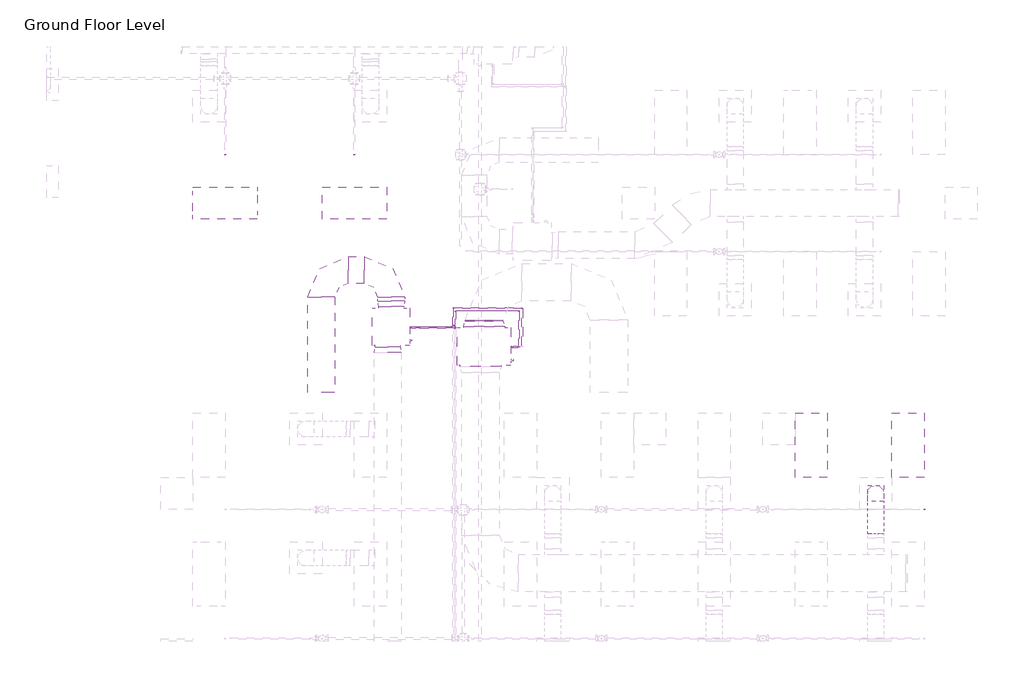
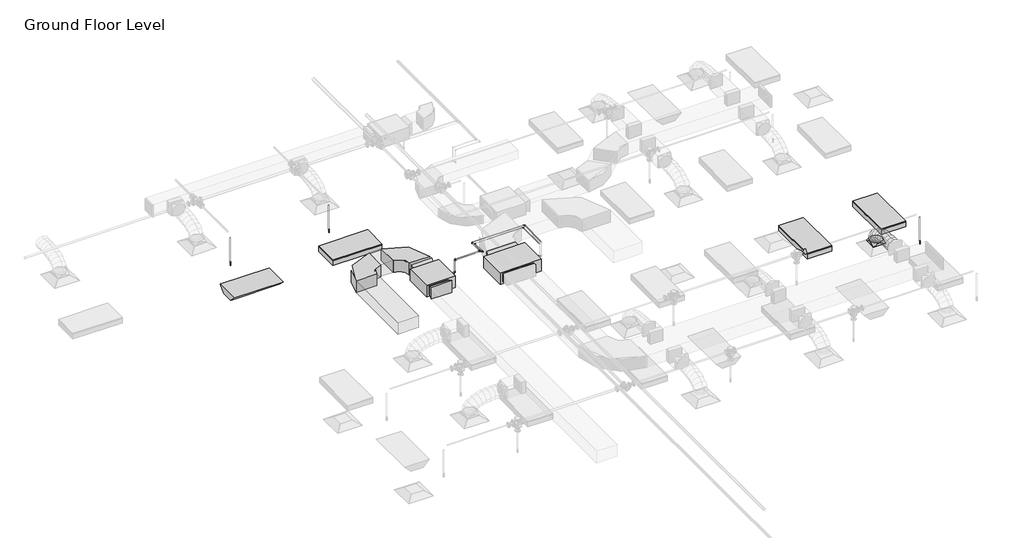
# One storey, part 33 of 74: 17 pipe segments, 14 pipe fittings, 6 duct fittings, 5 duct segments, 4 light fixtures, 3 fire suppression terminals, 2 proxies.
"""IFC4 building model written with IfcOpenShell, lengths in millimetres."""

from ifc_helpers import new_model, si_unit, point, frame, frame_2d, origin, place, context, project, spatial, polyline, circle_curve, ellipse_curve, trimmed, segment, composite_curve, outline, extrude, transform, mapped, element, save
from ifc_brep_helpers import plane_surface, cylinder_surface, advanced_brep
from components import fcu_daikin_iu_7e1df382, fcu_daikin_iu_bad131e0, m_rectangular_elbow_radius_1_w_abe20169, m_rectangular_transition_angle_45_degree_3cf6e25b, m_rectangular_transition_angle_45_degree_f7c2916c, m_rectangular_transition_angle_45_degree_603cf0b0, m_rectangular_to_round_transition_angle_45_degree_641efff0, m_sprinkler_dry_pendent_hosted_15_mm_dry_pendent_9bda8e11, m_emergency_recessed_lighting_fixture_600x1200_277_5b10b25d, m_troffer_light_parabolic_rectangular1_0600x1200mm_4_lamp_86473d4a, m_elbow_generic_standard_a088f956, m_elbow_generic_standard_2a704253, m_tee_generic_standard_cdc1cff5, m_tee_generic_standard_d9c36a1d, m_transition_generic_standard_6dc712c0, m_transition_generic_standard_b63c8674

model = new_model("IFC4")

# Units and contexts
model_context = context("Model", 3, world=origin())
ifc_project = project(units=[si_unit("LENGTHUNIT", "METRE", prefix="MILLI")], contexts=[model_context])

# Site, building, storey
site = spatial("IfcSite", under=ifc_project)
building = spatial("IfcBuilding", under=site)
storey = spatial("IfcBuildingStorey", under=building, Name="Ground Floor Level", Elevation=900.0)

# Proxies
placement = place(None, origin())
fcu_daikin_iu_shape = fcu_daikin_iu_7e1df382(model_context)
element("IfcBuildingElementProxy", 1, Name="FCU-DAIKIN IU : 7.2kW, 230V/50Hz/1Ph", ObjectType="FCU-DAIKIN IU : 7.2kW, 230V/50Hz/1Ph", at=placement, inside=storey, context=model_context, shape_type="MappedRepresentation", body=[
    mapped(fcu_daikin_iu_shape, transform((6073.4139492, -7933.9358641, 3934.0875), x_axis=(1.0, 0.0, 0.0), y_axis=(0.0, 1.0, 0.0), z_axis=(0.0, 0.0, 1.0))),
])
fcu_daikin_iu_2_shape = fcu_daikin_iu_bad131e0(model_context)
element("IfcBuildingElementProxy", 2, Name="FCU-DAIKIN IU : 4.5kW, 230V/50Hz/1Ph", ObjectType="FCU-DAIKIN IU : 4.5kW, 230V/50Hz/1Ph", at=placement, inside=storey, context=model_context, shape_type="MappedRepresentation", body=[
    mapped(fcu_daikin_iu_2_shape, transform((4345.6581888, -7565.0566353, 3934.0874218), x_axis=(1.0, 0.0, 0.0), y_axis=(0.0, 1.0, 0.0), z_axis=(0.0, 0.0, 1.0))),
])

# Duct fittings
m_rectangular_elbow_radius_1_w_shape = m_rectangular_elbow_radius_1_w_abe20169(model_context)
element("IfcDuctFitting", 3, ObjectType="M_Rectangular Elbow - Radius : 1 W", at=placement, inside=storey, context=model_context, shape_type="MappedRepresentation", body=[
    mapped(m_rectangular_elbow_radius_1_w_shape, transform((4345.6581888, -6509.6566353, 4075.2874218), x_axis=(0.0, 1.0, 0.0), y_axis=(-1.0, 0.0, 0.0), z_axis=(0.0, 0.0, 1.0))),
])
element("IfcDuctFitting", 4, ObjectType="M_Rectangular Elbow - Radius : 1 W", at=placement, inside=storey, context=model_context, shape_type="MappedRepresentation", body=[
    mapped(m_rectangular_elbow_radius_1_w_shape, transform((3045.6581888, -6509.6566353, 4075.2874218), x_axis=(-1.0, 0.0, 0.0), y_axis=(0.0, -1.0, 0.0), z_axis=(0.0, 0.0, 1.0))),
])
m_rectangular_transition_angle_45_degree_shape = m_rectangular_transition_angle_45_degree_3cf6e25b(model_context)
element("IfcDuctFitting", 5, ObjectType="M_Rectangular Transition - Angle : 45 Degree", at=placement, inside=storey, context=model_context, shape_type="MappedRepresentation", body=[
    mapped(m_rectangular_transition_angle_45_degree_shape, transform((4282.1581888, -7940.4566353, 4099.9999218), x_axis=(0.0, -1.0, 0.0), y_axis=(1.0, 0.0, 0.0), z_axis=(0.0, 0.0, 1.0))),
])
m_rectangular_transition_angle_45_degree_2_shape = m_rectangular_transition_angle_45_degree_f7c2916c(model_context)
element("IfcDuctFitting", 6, ObjectType="M_Rectangular Transition - Angle : 45 Degree", at=placement, inside=storey, context=model_context, shape_type="MappedRepresentation", body=[
    mapped(m_rectangular_transition_angle_45_degree_2_shape, transform((4345.6581888, -7189.6566353, 4075.2874218), x_axis=(0.0, 1.0, 0.0), y_axis=(-1.0, 0.0, 0.0), z_axis=(0.0, 0.0, 1.0))),
])
m_rectangular_transition_angle_45_degree_3_shape = m_rectangular_transition_angle_45_degree_603cf0b0(model_context)
element("IfcDuctFitting", 7, ObjectType="M_Rectangular Transition - Angle : 45 Degree", at=placement, inside=storey, context=model_context, shape_type="MappedRepresentation", body=[
    mapped(m_rectangular_transition_angle_45_degree_3_shape, transform((6073.4139492, -7558.5358641, 4075.2875), x_axis=(0.0, 1.0, 0.0), y_axis=(-1.0, 0.0, 0.0), z_axis=(0.0, 0.0, 1.0))),
])
m_rectangular_to_round_transition_angle_45_degree_shape = m_rectangular_to_round_transition_angle_45_degree_641efff0(model_context)
element("IfcDuctFitting", 8, ObjectType="M_Rectangular to Round Transition - Angle : 45 Degree", at=placement, inside=storey, context=model_context, shape_type="MappedRepresentation", body=[
    mapped(m_rectangular_to_round_transition_angle_45_degree_shape, transform((13352.7672395, -10664.7846466, 3751.6), x_axis=(0.0, 0.0, 1.0), y_axis=(-1.0, 0.0, 0.0), z_axis=(0.0, -1.0, 0.0))),
])

# Duct segments
element("IfcDuctSegment", 9, ObjectType="Flex - Round", at=placement, inside=storey, context=model_context, shape_type="AdvancedBrep", body=[
    advanced_brep(
    [(13502.7672395, -10664.7846466, 3826.6), (13352.7672395, -10814.7846466, 3826.6), (13202.7672395, -10664.7846466, 3826.6), (13352.7672395, -10514.7846466, 3826.6), (13502.7672395, -10664.7846466, 3857.9382361), (13352.7672395, -10814.7846466, 3832.2943726), (13202.7672395, -10664.7846466, 3857.9382361), (13352.7672395, -10514.7846466, 3883.5820996), (13502.7672395, -10681.8009258, 3906.2508008), (13352.7672395, -10815.5381175, 3834.4336246), (13202.7672395, -10681.8009258, 3906.2508008), (13352.7672395, -10548.0637341, 3978.0679769), (13502.7672395, -10728.9857498, 3968.710741), (13352.7672395, -10833.1895095, 3857.7992917), (13202.7672395, -10728.9857498, 3968.710741), (13352.7672395, -10624.78199, 4079.6221903), (13502.7672395, -10800.5430984, 4016.0679312), (13352.7672395, -10869.4737825, 3881.8124958), (13202.7672395, -10800.5430984, 4016.0679312), (13352.7672395, -10731.6124143, 4150.3233665), (13502.7672395, -10890.6769515, 4050.4104815), (13352.7672395, -10934.2340294, 3906.4872652), (13202.7672395, -10890.6769515, 4050.4104815), (13352.7672395, -10847.1198737, 4194.3336978), (13502.7672395, -10993.591289, 4073.8265025), (13352.7672395, -11020.1487195, 3926.0353694), (13202.7672395, -10993.591289, 4073.8265025), (13352.7672395, -10967.0338584, 4221.6176356), (13502.7672395, -11103.4900905, 4088.4041045), (13352.7672395, -11118.6379564, 3939.0995418), (13202.7672395, -11103.4900905, 4088.4041045), (13352.7672395, -11088.3422246, 4237.7086671), (13502.7672395, -11214.5773359, 4096.2313978), (13352.7672395, -11222.0803018, 3946.3881695), (13202.7672395, -11214.5773359, 4096.2313978), (13352.7672395, -11207.0743701, 4246.074626), (13502.7672395, -11321.0570051, 4099.3964928), (13352.7672395, -11323.7471101, 3949.4102029), (13202.7672395, -11321.0570051, 4099.3964928), (13352.7672395, -11318.3669002, 4249.3827828), (13502.7672395, -11417.1330779, 4099.9875), (13352.7672395, -11416.2103779, 4249.9846621), (13202.7672395, -11417.1330779, 4099.9875), (13352.7672395, -11418.0557779, 3949.9903379)],
    [
        (0, 1, circle_curve(frame((13352.7672395, -10664.7846466, 3826.6), z_axis=(0.0, 0.0, -1.0), x_axis=(1.0, 0.0, 0.0)), 150.0)),
        (1, 2, circle_curve(frame((13352.7672395, -10664.7846466, 3826.6), z_axis=(0.0, 0.0, -1.0), x_axis=(1.0, 0.0, 0.0)), 150.0)),
        (2, 3, circle_curve(frame((13352.7672395, -10664.7846466, 3826.6), z_axis=(0.0, 0.0, -1.0), x_axis=(1.0, 0.0, 0.0)), 150.0)),
        (3, 0, circle_curve(frame((13352.7672395, -10664.7846466, 3826.6), z_axis=(0.0, 0.0, -1.0), x_axis=(1.0, 0.0, 0.0)), 150.0)),
        (0, 4),
        (4, 5, ellipse_curve(frame((13352.7672395, -10664.7846466, 3857.9382361), z_axis=(0.0, 0.16851424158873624, -0.9856992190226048), x_axis=(0.0, -0.9856992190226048, -0.16851424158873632)), 152.1762391, 150.0)),
        (5, 1),
        (5, 6, ellipse_curve(frame((13352.7672395, -10664.7846466, 3857.9382361), z_axis=(0.0, 0.16851424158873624, -0.9856992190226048), x_axis=(0.0, -0.9856992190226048, -0.16851424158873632)), 152.1762391, 150.0)),
        (6, 2),
        (6, 7, ellipse_curve(frame((13352.7672395, -10664.7846466, 3857.9382361), z_axis=(0.0, 0.16851424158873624, -0.9856992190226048), x_axis=(0.0, -0.9856992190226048, -0.16851424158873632)), 152.1762391, 150.0)),
        (7, 3),
        (7, 4, ellipse_curve(frame((13352.7672395, -10664.7846466, 3857.9382361), z_axis=(0.0, 0.16851424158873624, -0.9856992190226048), x_axis=(0.0, -0.9856992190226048, -0.16851424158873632)), 152.1762391, 150.0)),
        (4, 8),
        (8, 9, ellipse_curve(frame((13352.7672395, -10681.8009258, 3906.2508008), z_axis=(0.0, 0.4731028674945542, -0.8810071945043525), x_axis=(0.0, -0.8810071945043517, -0.47310286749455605)), 151.80034, 150.0)),
        (9, 5),
        (9, 10, ellipse_curve(frame((13352.7672395, -10681.8009258, 3906.2508008), z_axis=(0.0, 0.4731028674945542, -0.8810071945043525), x_axis=(0.0, -0.8810071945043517, -0.47310286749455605)), 151.80034, 150.0)),
        (10, 6),
        (10, 11, ellipse_curve(frame((13352.7672395, -10681.8009258, 3906.2508008), z_axis=(0.0, 0.4731028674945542, -0.8810071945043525), x_axis=(0.0, -0.8810071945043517, -0.47310286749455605)), 151.80034, 150.0)),
        (11, 7),
        (11, 8, ellipse_curve(frame((13352.7672395, -10681.8009258, 3906.2508008), z_axis=(0.0, 0.4731028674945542, -0.8810071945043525), x_axis=(0.0, -0.8810071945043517, -0.47310286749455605)), 151.80034, 150.0)),
        (8, 12),
        (12, 13, ellipse_curve(frame((13352.7672395, -10728.9857498, 3968.710741), z_axis=(0.0, 0.7288014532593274, -0.6847250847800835), x_axis=(0.0, -0.6847250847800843, -0.7288014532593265)), 152.1833536, 150.0)),
        (13, 9),
        (13, 14, ellipse_curve(frame((13352.7672395, -10728.9857498, 3968.710741), z_axis=(0.0, 0.7288014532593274, -0.6847250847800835), x_axis=(0.0, -0.6847250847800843, -0.7288014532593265)), 152.1833536, 150.0)),
        (14, 10),
        (14, 15, ellipse_curve(frame((13352.7672395, -10728.9857498, 3968.710741), z_axis=(0.0, 0.7288014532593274, -0.6847250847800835), x_axis=(0.0, -0.6847250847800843, -0.7288014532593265)), 152.1833536, 150.0)),
        (15, 11),
        (15, 12, ellipse_curve(frame((13352.7672395, -10728.9857498, 3968.710741), z_axis=(0.0, 0.7288014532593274, -0.6847250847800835), x_axis=(0.0, -0.6847250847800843, -0.7288014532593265)), 152.1833536, 150.0)),
        (12, 16),
        (16, 17, ellipse_curve(frame((13352.7672395, -10800.5430984, 4016.0679312), z_axis=(0.0, 0.8895974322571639, -0.45674545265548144), x_axis=(0.0, -0.45674545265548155, -0.889597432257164)), 150.9170671, 150.0)),
        (17, 13),
        (17, 18, ellipse_curve(frame((13352.7672395, -10800.5430984, 4016.0679312), z_axis=(0.0, 0.8895974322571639, -0.45674545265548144), x_axis=(0.0, -0.45674545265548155, -0.889597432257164)), 150.9170671, 150.0)),
        (18, 14),
        (18, 19, ellipse_curve(frame((13352.7672395, -10800.5430984, 4016.0679312), z_axis=(0.0, 0.8895974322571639, -0.45674545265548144), x_axis=(0.0, -0.45674545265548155, -0.889597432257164)), 150.9170671, 150.0)),
        (19, 15),
        (19, 16, ellipse_curve(frame((13352.7672395, -10800.5430984, 4016.0679312), z_axis=(0.0, 0.8895974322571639, -0.45674545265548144), x_axis=(0.0, -0.45674545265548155, -0.889597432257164)), 150.9170671, 150.0)),
        (16, 20),
        (20, 21, ellipse_curve(frame((13352.7672395, -10890.6769515, 4050.4104815), z_axis=(0.0, 0.9571277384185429, -0.28966617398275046), x_axis=(0.0, -0.2896661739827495, -0.9571277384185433)), 150.3699146, 150.0)),
        (21, 17),
        (21, 22, ellipse_curve(frame((13352.7672395, -10890.6769515, 4050.4104815), z_axis=(0.0, 0.9571277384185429, -0.28966617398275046), x_axis=(0.0, -0.2896661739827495, -0.9571277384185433)), 150.3699146, 150.0)),
        (22, 18),
        (22, 23, ellipse_curve(frame((13352.7672395, -10890.6769515, 4050.4104815), z_axis=(0.0, 0.9571277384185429, -0.28966617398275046), x_axis=(0.0, -0.2896661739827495, -0.9571277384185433)), 150.3699146, 150.0)),
        (23, 19),
        (23, 20, ellipse_curve(frame((13352.7672395, -10890.6769515, 4050.4104815), z_axis=(0.0, 0.9571277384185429, -0.28966617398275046), x_axis=(0.0, -0.2896661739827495, -0.9571277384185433)), 150.3699146, 150.0)),
        (20, 24),
        (24, 25, ellipse_curve(frame((13352.7672395, -10993.591289, 4073.8265025), z_axis=(0.0, 0.9842355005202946, -0.17686288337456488), x_axis=(0.0, -0.17686288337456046, -0.9842355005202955)), 150.1583036, 150.0)),
        (25, 21),
        (25, 26, ellipse_curve(frame((13352.7672395, -10993.591289, 4073.8265025), z_axis=(0.0, 0.9842355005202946, -0.17686288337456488), x_axis=(0.0, -0.17686288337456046, -0.9842355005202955)), 150.1583036, 150.0)),
        (26, 22),
        (26, 27, ellipse_curve(frame((13352.7672395, -10993.591289, 4073.8265025), z_axis=(0.0, 0.9842355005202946, -0.17686288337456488), x_axis=(0.0, -0.17686288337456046, -0.9842355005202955)), 150.1583036, 150.0)),
        (27, 23),
        (27, 24, ellipse_curve(frame((13352.7672395, -10993.591289, 4073.8265025), z_axis=(0.0, 0.9842355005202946, -0.17686288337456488), x_axis=(0.0, -0.17686288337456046, -0.9842355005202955)), 150.1583036, 150.0)),
        (24, 28),
        (28, 29, ellipse_curve(frame((13352.7672395, -11103.4900905, 4088.4041045), z_axis=(0.0, 0.9948927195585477, -0.10093798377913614), x_axis=(0.0, -0.1009379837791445, -0.9948927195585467)), 150.0710174, 150.0)),
        (29, 25),
        (29, 30, ellipse_curve(frame((13352.7672395, -11103.4900905, 4088.4041045), z_axis=(0.0, 0.9948927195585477, -0.10093798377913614), x_axis=(0.0, -0.1009379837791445, -0.9948927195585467)), 150.0710174, 150.0)),
        (30, 26),
        (30, 31, ellipse_curve(frame((13352.7672395, -11103.4900905, 4088.4041045), z_axis=(0.0, 0.9948927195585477, -0.10093798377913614), x_axis=(0.0, -0.1009379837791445, -0.9948927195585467)), 150.0710174, 150.0)),
        (31, 27),
        (31, 28, ellipse_curve(frame((13352.7672395, -11103.4900905, 4088.4041045), z_axis=(0.0, 0.9948927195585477, -0.10093798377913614), x_axis=(0.0, -0.1009379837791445, -0.9948927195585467)), 150.0710174, 150.0)),
        (28, 32),
        (32, 33, ellipse_curve(frame((13352.7672395, -11214.5773359, 4096.2313978), z_axis=(0.0, 0.9987487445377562, -0.05000945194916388), x_axis=(0.0, -0.05000945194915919, -0.9987487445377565)), 150.0309553, 150.0)),
        (33, 29),
        (33, 34, ellipse_curve(frame((13352.7672395, -11214.5773359, 4096.2313978), z_axis=(0.0, 0.9987487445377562, -0.05000945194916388), x_axis=(0.0, -0.05000945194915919, -0.9987487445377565)), 150.0309553, 150.0)),
        (34, 30),
        (34, 35, ellipse_curve(frame((13352.7672395, -11214.5773359, 4096.2313978), z_axis=(0.0, 0.9987487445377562, -0.05000945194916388), x_axis=(0.0, -0.05000945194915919, -0.9987487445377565)), 150.0309553, 150.0)),
        (35, 31),
        (35, 32, ellipse_curve(frame((13352.7672395, -11214.5773359, 4096.2313978), z_axis=(0.0, 0.9987487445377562, -0.05000945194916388), x_axis=(0.0, -0.05000945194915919, -0.9987487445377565)), 150.0309553, 150.0)),
        (32, 36),
        (36, 37, ellipse_curve(frame((13352.7672395, -11321.0570051, 4099.3964928), z_axis=(0.0, 0.9998391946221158, -0.017932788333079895), x_axis=(0.0, -0.017932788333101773, -0.9998391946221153)), 150.0104124, 150.0)),
        (37, 33),
        (37, 38, ellipse_curve(frame((13352.7672395, -11321.0570051, 4099.3964928), z_axis=(0.0, 0.9998391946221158, -0.017932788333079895), x_axis=(0.0, -0.017932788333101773, -0.9998391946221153)), 150.0104124, 150.0)),
        (38, 34),
        (38, 39, ellipse_curve(frame((13352.7672395, -11321.0570051, 4099.3964928), z_axis=(0.0, 0.9998391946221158, -0.017932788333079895), x_axis=(0.0, -0.017932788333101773, -0.9998391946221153)), 150.0104124, 150.0)),
        (39, 35),
        (39, 36, ellipse_curve(frame((13352.7672395, -11321.0570051, 4099.3964928), z_axis=(0.0, 0.9998391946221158, -0.017932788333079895), x_axis=(0.0, -0.017932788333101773, -0.9998391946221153)), 150.0104124, 150.0)),
        (40, 41, circle_curve(frame((13352.7672395, -11417.1330779, 4099.9875), z_axis=(0.0, -0.999981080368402, 0.0061513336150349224), x_axis=(1.0, 0.0, 0.0)), 150.0)),
        (41, 42, circle_curve(frame((13352.7672395, -11417.1330779, 4099.9875), z_axis=(0.0, -0.999981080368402, 0.0061513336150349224), x_axis=(1.0, 0.0, 0.0)), 150.0)),
        (42, 43, circle_curve(frame((13352.7672395, -11417.1330779, 4099.9875), z_axis=(0.0, -0.999981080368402, 0.0061513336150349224), x_axis=(1.0, 0.0, 0.0)), 150.0)),
        (43, 40, circle_curve(frame((13352.7672395, -11417.1330779, 4099.9875), z_axis=(0.0, -0.999981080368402, 0.0061513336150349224), x_axis=(1.0, 0.0, 0.0)), 150.0)),
        (36, 40),
        (43, 37),
        (42, 38),
        (41, 39),
    ],
    [
        plane_surface(frame((13352.7672395, -10814.7846466, 3826.6), z_axis=(0.0, 0.0, -1.0), x_axis=(1.0, 0.0, 0.0))),
        cylinder_surface(frame((13352.7672395, -10664.7846466, 3826.6), z_axis=(0.0, 0.0, -1.0), x_axis=(1.0, 0.0, 0.0)), 150.0),
        cylinder_surface(frame((13352.7672395, -10664.7846466, 3857.9382361), z_axis=(0.0, 0.3322087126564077, -0.943205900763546), x_axis=(1.0, 0.0, 0.0)), 150.0),
        cylinder_surface(frame((13352.7672395, -10681.8009258, 3906.2508008), z_axis=(0.0, 0.6027750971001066, -0.797911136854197), x_axis=(1.0, 0.0, 0.0)), 150.0),
        cylinder_surface(frame((13352.7672395, -10728.9857498, 3968.710741), z_axis=(0.0, 0.8339157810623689, -0.5518917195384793), x_axis=(1.0, 0.0, 0.0)), 150.0),
        cylinder_surface(frame((13352.7672395, -10800.5430984, 4016.0679312), z_axis=(0.0, 0.9344675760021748, -0.3560482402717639), x_axis=(1.0, 0.0, 0.0)), 150.0),
        cylinder_surface(frame((13352.7672395, -10890.6769515, 4050.4104815), z_axis=(0.0, 0.9750787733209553, -0.22185893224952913), x_axis=(1.0, 0.0, 0.0)), 150.0),
        cylinder_surface(frame((13352.7672395, -10993.591289, 4073.8265025), z_axis=(0.0, 0.9913169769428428, -0.13149392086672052), x_axis=(1.0, 0.0, 0.0)), 150.0),
        cylinder_surface(frame((13352.7672395, -11103.4900905, 4088.4041045), z_axis=(0.0, 0.9975268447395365, -0.07028651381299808), x_axis=(1.0, 0.0, 0.0)), 150.0),
        cylinder_surface(frame((13352.7672395, -11214.5773359, 4096.2313978), z_axis=(0.0, 0.999558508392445, -0.029711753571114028), x_axis=(1.0, 0.0, 0.0)), 150.0),
        plane_surface(frame((13352.7672395, -11418.0557779, 3949.9903379), z_axis=(0.0, -0.999981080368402, 0.006151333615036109), x_axis=(1.0, 0.0, 0.0))),
        cylinder_surface(frame((13352.7672395, -11321.0570051, 4099.3964928), z_axis=(0.0, 0.999981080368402, -0.0061513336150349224), x_axis=(1.0, 0.0, 0.0)), 150.0),
    ],
    [
        (0, [[1, 2, 3, 4]]),
        (1, [[-1, 5, 6, 7]]),
        (1, [[-2, -7, 8, 9]]),
        (1, [[-3, -9, 10, 11]]),
        (1, [[-4, -11, 12, -5]]),
        (2, [[-6, 13, 14, 15]]),
        (2, [[-8, -15, 16, 17]]),
        (2, [[-10, -17, 18, 19]]),
        (2, [[-12, -19, 20, -13]]),
        (3, [[-14, 21, 22, 23]]),
        (3, [[-16, -23, 24, 25]]),
        (3, [[-18, -25, 26, 27]]),
        (3, [[-20, -27, 28, -21]]),
        (4, [[-22, 29, 30, 31]]),
        (4, [[-24, -31, 32, 33]]),
        (4, [[-26, -33, 34, 35]]),
        (4, [[-28, -35, 36, -29]]),
        (5, [[-30, 37, 38, 39]]),
        (5, [[-32, -39, 40, 41]]),
        (5, [[-34, -41, 42, 43]]),
        (5, [[-36, -43, 44, -37]]),
        (6, [[-38, 45, 46, 47]]),
        (6, [[-40, -47, 48, 49]]),
        (6, [[-42, -49, 50, 51]]),
        (6, [[-44, -51, 52, -45]]),
        (7, [[-46, 53, 54, 55]]),
        (7, [[-48, -55, 56, 57]]),
        (7, [[-50, -57, 58, 59]]),
        (7, [[-52, -59, 60, -53]]),
        (8, [[-54, 61, 62, 63]]),
        (8, [[-56, -63, 64, 65]]),
        (8, [[-58, -65, 66, 67]]),
        (8, [[-60, -67, 68, -61]]),
        (9, [[-62, 69, 70, 71]]),
        (9, [[-64, -71, 72, 73]]),
        (9, [[-66, -73, 74, 75]]),
        (9, [[-68, -75, 76, -69]]),
        (10, [[77, 78, 79, 80]]),
        (11, [[-70, 81, -80, 82]]),
        (11, [[-72, -82, -79, 83]]),
        (11, [[-74, -83, -78, 84]]),
        (11, [[-76, -84, -77, -81]]),
    ],
),
])
element("IfcDuctSegment", 10, ObjectType="Radius Elbows / Taps", at=placement, inside=storey, context=model_context, shape_type="SweptSolid", body=[
    extrude(outline(polyline([(4595.6581888, -7086.2075842), (4095.6581888, -7086.2075842), (4095.6581888, -7009.6566353), (4595.6581888, -7009.6566353), (4595.6581888, -7086.2075842)])), frame((0.0, 0.0, 3925.2874218), z_axis=(0.0, 0.0, 1.0), x_axis=(1.0, 0.0, 0.0)), (0.0, 0.0, 1.0), 300.0),
])
element("IfcDuctSegment", 11, ObjectType="Radius Elbows / Taps", at=placement, inside=storey, context=model_context, shape_type="SweptSolid", body=[
    extrude(outline(polyline([(3845.6581888, -6259.6566353), (3845.6581888, -6759.6566353), (3545.6581888, -6759.6566353), (3545.6581888, -6259.6566353), (3845.6581888, -6259.6566353)])), frame((0.0, 0.0, 3925.2874218), z_axis=(0.0, 0.0, 1.0), x_axis=(1.0, 0.0, 0.0)), (0.0, 0.0, 1.0), 300.0),
])
element("IfcDuctSegment", 12, ObjectType="Radius Elbows / Taps", at=placement, inside=storey, context=model_context, shape_type="SweptSolid", body=[
    extrude(outline(polyline([(2795.6581888, -7009.6566353), (3295.6581888, -7009.6566353), (3295.6581888, -8789.6566353), (2795.6581888, -8789.6566353), (2795.6581888, -7009.6566353)])), frame((0.0, 0.0, 3925.2874218), z_axis=(0.0, 0.0, 1.0), x_axis=(1.0, 0.0, 0.0)), (0.0, 0.0, 1.0), 300.0),
])
element("IfcDuctSegment", 13, ObjectType="Radius Elbows / Taps", at=placement, inside=storey, context=model_context, shape_type="SweptSolid", body=[
    extrude(outline(polyline([(6423.4139492, -7455.086813), (5723.4139492, -7455.086813), (5723.4139492, -7438.5358641), (6423.4139492, -7438.5358641), (6423.4139492, -7455.086813)])), frame((0.0, 0.0, 3925.2875), z_axis=(0.0, 0.0, 1.0), x_axis=(1.0, 0.0, 0.0)), (0.0, 0.0, 1.0), 300.0),
])

# Fire suppression terminals
m_sprinkler_dry_pendent_hosted_15_mm_dry_pendent_shape = m_sprinkler_dry_pendent_hosted_15_mm_dry_pendent_9bda8e11(model_context)
element("IfcFireSuppressionTerminal", 14, ObjectType="M_Sprinkler - Dry - Pendent - Hosted : 15 mm Dry Pendent", at=placement, inside=storey, context=model_context, shape_type="MappedRepresentation", body=[
    mapped(m_sprinkler_dry_pendent_hosted_15_mm_dry_pendent_shape, transform((3662.7672395, -4364.7846466, 3650.0), x_axis=(1.0, 0.0, 0.0), y_axis=(0.0, -1.0, 0.0), z_axis=(0.0, 0.0, -1.0))),
])
element("IfcFireSuppressionTerminal", 15, ObjectType="M_Sprinkler - Dry - Pendent - Hosted : 15 mm Dry Pendent", at=placement, inside=storey, context=model_context, shape_type="MappedRepresentation", body=[
    mapped(m_sprinkler_dry_pendent_hosted_15_mm_dry_pendent_shape, transform((1262.7672395, -4364.7846466, 3650.0), x_axis=(1.0, 0.0, 0.0), y_axis=(0.0, -1.0, 0.0), z_axis=(0.0, 0.0, -1.0))),
])
element("IfcFireSuppressionTerminal", 16, ObjectType="M_Sprinkler - Dry - Pendent - Hosted : 15 mm Dry Pendent", at=placement, inside=storey, context=model_context, shape_type="MappedRepresentation", body=[
    mapped(m_sprinkler_dry_pendent_hosted_15_mm_dry_pendent_shape, transform((14252.7672395, -10964.7846466, 3650.0), x_axis=(1.0, 0.0, 0.0), y_axis=(0.0, -1.0, 0.0), z_axis=(0.0, 0.0, -1.0))),
])

# Light fixtures
m_emergency_recessed_lighting_fixture_600x1200_277_shape = m_emergency_recessed_lighting_fixture_600x1200_277_5b10b25d(model_context)
element("IfcLightFixture", 17, ObjectType="M_Emergency Recessed Lighting Fixture : 600x1200 - 277", at=placement, inside=storey, context=model_context, shape_type="MappedRepresentation", body=[
    mapped(m_emergency_recessed_lighting_fixture_600x1200_277_shape, transform((662.7672395, -4964.7846466, 3650.0), x_axis=(1.0, 0.0, 0.0), y_axis=(0.0, 1.0, 0.0), z_axis=(0.0, 0.0, 1.0))),
])
m_troffer_light_parabolic_rectangular1_0600x1200mm_4_lamp_shape = m_troffer_light_parabolic_rectangular1_0600x1200mm_4_lamp_86473d4a(model_context)
element("IfcLightFixture", 18, ObjectType="M_Troffer Light - Parabolic Rectangular1 : 0600x1200mm(4 Lamp) - 277V 2", at=placement, inside=storey, context=model_context, shape_type="MappedRepresentation", body=[
    mapped(m_troffer_light_parabolic_rectangular1_0600x1200mm_4_lamp_shape, transform((13893.3013074, -9746.081145, 3650.0), x_axis=(0.0, 1.0, 0.0), y_axis=(-1.0, 0.0, 0.0), z_axis=(0.0, 0.0, 1.0))),
])
element("IfcLightFixture", 19, ObjectType="M_Troffer Light - Parabolic Rectangular1 : 0600x1200mm(4 Lamp) - 277V 2", at=placement, inside=storey, context=model_context, shape_type="MappedRepresentation", body=[
    mapped(m_troffer_light_parabolic_rectangular1_0600x1200mm_4_lamp_shape, transform((12093.3013074, -9746.081145, 3650.0), x_axis=(0.0, 1.0, 0.0), y_axis=(-1.0, 0.0, 0.0), z_axis=(0.0, 0.0, 1.0))),
])
element("IfcLightFixture", 20, ObjectType="M_Troffer Light - Parabolic Rectangular1 : 0600x1200mm(4 Lamp) - 277V 2", at=placement, inside=storey, context=model_context, shape_type="MappedRepresentation", body=[
    mapped(m_troffer_light_parabolic_rectangular1_0600x1200mm_4_lamp_shape, transform((3681.4707411, -5205.3187145, 3650.0), x_axis=(1.0, 0.0, 0.0), y_axis=(0.0, 1.0, 0.0), z_axis=(0.0, 0.0, 1.0))),
])

# Pipe fittings
m_elbow_generic_standard_shape = m_elbow_generic_standard_a088f956(model_context)
element("IfcPipeFitting", 21, ObjectType="M_Elbow - Generic : Standard", at=placement, inside=storey, context=model_context, shape_type="MappedRepresentation", body=[
    mapped(m_elbow_generic_standard_shape, transform((4878.7581888, -7565.0566353, 4034.0874218), x_axis=(1.0, 0.0, 0.0), y_axis=(0.0, 0.0, 1.0), z_axis=(0.0, -1.0, 0.0))),
])
element("IfcPipeFitting", 22, ObjectType="M_Elbow - Generic : Standard", at=placement, inside=storey, context=model_context, shape_type="MappedRepresentation", body=[
    mapped(m_elbow_generic_standard_shape, transform((4878.7581888, -7565.0566353, 4390.0), x_axis=(0.0, 0.0, 1.0), y_axis=(1.0, 0.0, 0.0), z_axis=(0.0, 1.0, 0.0))),
])
element("IfcPipeFitting", 23, ObjectType="M_Elbow - Generic : Standard", at=placement, inside=storey, context=model_context, shape_type="MappedRepresentation", body=[
    mapped(m_elbow_generic_standard_shape, transform((5497.8951827, -7216.0289893, 4390.0), x_axis=(-1.0, 0.0, 0.0), y_axis=(0.0, -1.0, 0.0), z_axis=(0.0, 0.0, 1.0))),
])
element("IfcPipeFitting", 24, ObjectType="M_Elbow - Generic : Standard", at=placement, inside=storey, context=model_context, shape_type="MappedRepresentation", body=[
    mapped(m_elbow_generic_standard_shape, transform((6782.8951827, -7216.0289893, 4390.0), x_axis=(0.0, 1.0, 0.0), y_axis=(-1.0, 0.0, 0.0), z_axis=(0.0, 0.0, 1.0))),
])
m_elbow_generic_standard_2_shape = m_elbow_generic_standard_2a704253(model_context)
element("IfcPipeFitting", 25, ObjectType="M_Elbow - Generic : Standard", at=placement, inside=storey, context=model_context, shape_type="MappedRepresentation", body=[
    mapped(m_elbow_generic_standard_2_shape, transform((4878.7581888, -7590.0566353, 4084.8874218), x_axis=(1.0, 0.0, 0.0), y_axis=(0.0, 0.0, 1.0), z_axis=(0.0, -1.0, 0.0))),
])
element("IfcPipeFitting", 26, ObjectType="M_Elbow - Generic : Standard", at=placement, inside=storey, context=model_context, shape_type="MappedRepresentation", body=[
    mapped(m_elbow_generic_standard_2_shape, transform((4878.7581888, -7590.0566353, 4377.5), x_axis=(0.0, 0.0, 1.0), y_axis=(1.0, 0.0, 0.0), z_axis=(0.0, 1.0, 0.0))),
])
element("IfcPipeFitting", 27, ObjectType="M_Elbow - Generic : Standard", at=placement, inside=storey, context=model_context, shape_type="MappedRepresentation", body=[
    mapped(m_elbow_generic_standard_2_shape, transform((5543.9904113, -7267.2400492, 4377.5), x_axis=(-1.0, 0.0, 0.0), y_axis=(0.0, -1.0, 0.0), z_axis=(0.0, 0.0, 1.0))),
])
element("IfcPipeFitting", 28, ObjectType="M_Elbow - Generic : Standard", at=placement, inside=storey, context=model_context, shape_type="MappedRepresentation", body=[
    mapped(m_elbow_generic_standard_2_shape, transform((6723.9904113, -7267.2400492, 4377.5), x_axis=(0.0, 1.0, 0.0), y_axis=(-1.0, 0.0, 0.0), z_axis=(0.0, 0.0, 1.0))),
])
m_tee_generic_standard_shape = m_tee_generic_standard_cdc1cff5(model_context)
element("IfcPipeFitting", 29, ObjectType="M_Tee - Generic : Standard", at=placement, inside=storey, context=model_context, shape_type="MappedRepresentation", body=[
    mapped(m_tee_generic_standard_shape, transform((5497.8951827, -7565.0566353, 4390.0), x_axis=(0.0, -1.0, 0.0), y_axis=(1.0, 0.0, 0.0), z_axis=(0.0, 0.0, 1.0))),
])
m_tee_generic_standard_2_shape = m_tee_generic_standard_d9c36a1d(model_context)
element("IfcPipeFitting", 30, ObjectType="M_Tee - Generic : Standard", at=placement, inside=storey, context=model_context, shape_type="MappedRepresentation", body=[
    mapped(m_tee_generic_standard_2_shape, transform((5543.9904113, -7590.0566353, 4377.5), x_axis=(0.0, -1.0, 0.0), y_axis=(1.0, 0.0, 0.0), z_axis=(0.0, 0.0, 1.0))),
])
m_transition_generic_standard_shape = m_transition_generic_standard_6dc712c0(model_context)
element("IfcPipeFitting", 31, ObjectType="M_Transition - Generic : Standard", at=placement, inside=storey, context=model_context, shape_type="MappedRepresentation", body=[
    mapped(m_transition_generic_standard_shape, transform((5475.6701827, -7565.0566353, 4390.0), x_axis=(-1.0, 0.0, 0.0), y_axis=(0.0, -1.0, 0.0), z_axis=(0.0, 0.0, 1.0))),
])
element("IfcPipeFitting", 32, ObjectType="M_Transition - Generic : Standard", at=placement, inside=storey, context=model_context, shape_type="MappedRepresentation", body=[
    mapped(m_transition_generic_standard_shape, transform((5497.8951827, -7542.8316353, 4390.0), x_axis=(0.0, 1.0, 0.0), y_axis=(-1.0, 0.0, 0.0), z_axis=(0.0, 0.0, 1.0))),
])
m_transition_generic_standard_2_shape = m_transition_generic_standard_b63c8674(model_context)
element("IfcPipeFitting", 33, ObjectType="M_Transition - Generic : Standard", at=placement, inside=storey, context=model_context, shape_type="MappedRepresentation", body=[
    mapped(m_transition_generic_standard_2_shape, transform((5524.9529113, -7590.0566353, 4377.5), x_axis=(-1.0, 0.0, 0.0), y_axis=(0.0, -1.0, 0.0), z_axis=(0.0, 0.0, 1.0))),
])
element("IfcPipeFitting", 34, ObjectType="M_Transition - Generic : Standard", at=placement, inside=storey, context=model_context, shape_type="MappedRepresentation", body=[
    mapped(m_transition_generic_standard_2_shape, transform((5543.9904113, -7571.0191353, 4377.5), x_axis=(0.0, 1.0, 0.0), y_axis=(-1.0, 0.0, 0.0), z_axis=(0.0, 0.0, 1.0))),
])

# Pipe segments
element("IfcPipeSegment", 35, ObjectType="Copper", at=placement, inside=storey, context=model_context, shape_type="SweptSolid", body=[
    extrude(outline(composite_curve([segment(trimmed(circle_curve(frame_2d((4390.0, 5497.8951827)), 6.5), [point((4390.0, 5504.3951827))], [point((4396.5, 5497.8951827))], False, "CARTESIAN"), True, "CONTINUOUS"), segment(trimmed(circle_curve(frame_2d((4390.0, 5497.8951827)), 6.5), [point((4396.5, 5497.8951827))], [point((4390.0, 5491.3951827))], False, "CARTESIAN"), True, "CONTINUOUS"), segment(trimmed(circle_curve(frame_2d((4390.0, 5497.8951827)), 6.5), [point((4390.0, 5491.3951827))], [point((4383.5, 5497.8951827))], False, "CARTESIAN"), True, "CONTINUOUS"), segment(trimmed(circle_curve(frame_2d((4390.0, 5497.8951827)), 6.5), [point((4383.5, 5497.8951827))], [point((4390.0, 5504.3951827))], False, "CARTESIAN"), True, "CONTINUOUS")], self_intersect=False)), frame((0.0, -7538.0691353, 0.0), z_axis=(0.0, 1.0, 0.0), x_axis=(0.0, 0.0, 1.0)), (0.0, 0.0, 1.0), 307.7526461),
])
element("IfcPipeSegment", 36, ObjectType="Copper", at=placement, inside=storey, context=model_context, shape_type="SweptSolid", body=[
    extrude(outline(composite_curve([segment(trimmed(circle_curve(frame_2d((-7590.0566353, 4084.8874218)), 3.35), [point((-7593.4066353, 4084.8874218))], [point((-7590.0566353, 4088.2374218))], False, "CARTESIAN"), True, "CONTINUOUS"), segment(trimmed(circle_curve(frame_2d((-7590.0566353, 4084.8874218)), 3.35), [point((-7590.0566353, 4088.2374218))], [point((-7586.7066353, 4084.8874218))], False, "CARTESIAN"), True, "CONTINUOUS"), segment(trimmed(circle_curve(frame_2d((-7590.0566353, 4084.8874218)), 3.35), [point((-7586.7066353, 4084.8874218))], [point((-7590.0566353, 4081.5374218))], False, "CARTESIAN"), True, "CONTINUOUS"), segment(trimmed(circle_curve(frame_2d((-7590.0566353, 4084.8874218)), 3.35), [point((-7590.0566353, 4081.5374218))], [point((-7593.4066353, 4084.8874218))], False, "CARTESIAN"), True, "CONTINUOUS")], self_intersect=False)), frame((4733.7581888, 0.0, 0.0), z_axis=(1.0, 0.0, 0.0), x_axis=(0.0, 1.0, 0.0)), (0.0, 0.0, 1.0), 133.8625),
])
element("IfcPipeSegment", 37, ObjectType="Copper", at=placement, inside=storey, context=model_context, shape_type="SweptSolid", body=[
    extrude(outline(composite_curve([segment(trimmed(circle_curve(frame_2d((-7565.0566353, 4034.0874218)), 6.5), [point((-7571.5566353, 4034.0874218))], [point((-7565.0566353, 4040.5874218))], False, "CARTESIAN"), True, "CONTINUOUS"), segment(trimmed(circle_curve(frame_2d((-7565.0566353, 4034.0874218)), 6.5), [point((-7565.0566353, 4040.5874218))], [point((-7558.5566353, 4034.0874218))], False, "CARTESIAN"), True, "CONTINUOUS"), segment(trimmed(circle_curve(frame_2d((-7565.0566353, 4034.0874218)), 6.5), [point((-7558.5566353, 4034.0874218))], [point((-7565.0566353, 4027.5874218))], False, "CARTESIAN"), True, "CONTINUOUS"), segment(trimmed(circle_curve(frame_2d((-7565.0566353, 4034.0874218)), 6.5), [point((-7565.0566353, 4027.5874218))], [point((-7571.5566353, 4034.0874218))], False, "CARTESIAN"), True, "CONTINUOUS")], self_intersect=False)), frame((4733.7581888, 0.0, 0.0), z_axis=(1.0, 0.0, 0.0), x_axis=(0.0, 1.0, 0.0)), (0.0, 0.0, 1.0), 130.7125),
])
element("IfcPipeSegment", 38, ObjectType="Copper", at=placement, inside=storey, context=model_context, shape_type="SweptSolid", body=[
    extrude(outline(composite_curve([segment(trimmed(circle_curve(frame_2d((-7590.0566353, 4377.5)), 3.35), [point((-7593.4066353, 4377.5))], [point((-7590.0566353, 4380.85))], False, "CARTESIAN"), True, "CONTINUOUS"), segment(trimmed(circle_curve(frame_2d((-7590.0566353, 4377.5)), 3.35), [point((-7590.0566353, 4380.85))], [point((-7586.7066353, 4377.5))], False, "CARTESIAN"), True, "CONTINUOUS"), segment(trimmed(circle_curve(frame_2d((-7590.0566353, 4377.5)), 3.35), [point((-7586.7066353, 4377.5))], [point((-7590.0566353, 4374.15))], False, "CARTESIAN"), True, "CONTINUOUS"), segment(trimmed(circle_curve(frame_2d((-7590.0566353, 4377.5)), 3.35), [point((-7590.0566353, 4374.15))], [point((-7593.4066353, 4377.5))], False, "CARTESIAN"), True, "CONTINUOUS")], self_intersect=False)), frame((4889.8956888, 0.0, 0.0), z_axis=(1.0, 0.0, 0.0), x_axis=(0.0, 1.0, 0.0)), (0.0, 0.0, 1.0), 631.8884725),
])
element("IfcPipeSegment", 39, ObjectType="Copper", at=placement, inside=storey, context=model_context, shape_type="SweptSolid", body=[
    extrude(outline(composite_curve([segment(trimmed(circle_curve(frame_2d((4878.7581888, -7590.0566353)), 3.35), [point((4875.4081888, -7590.0566353))], [point((4878.7581888, -7586.7066353))], False, "CARTESIAN"), True, "CONTINUOUS"), segment(trimmed(circle_curve(frame_2d((4878.7581888, -7590.0566353)), 3.35), [point((4878.7581888, -7586.7066353))], [point((4882.1081888, -7590.0566353))], False, "CARTESIAN"), True, "CONTINUOUS"), segment(trimmed(circle_curve(frame_2d((4878.7581888, -7590.0566353)), 3.35), [point((4882.1081888, -7590.0566353))], [point((4878.7581888, -7593.4066353))], False, "CARTESIAN"), True, "CONTINUOUS"), segment(trimmed(circle_curve(frame_2d((4878.7581888, -7590.0566353)), 3.35), [point((4878.7581888, -7593.4066353))], [point((4875.4081888, -7590.0566353))], False, "CARTESIAN"), True, "CONTINUOUS")], self_intersect=False)), frame((0.0, 0.0, 4096.0249218), z_axis=(0.0, 0.0, 1.0), x_axis=(1.0, 0.0, 0.0)), (0.0, 0.0, 1.0), 270.3375782),
])
element("IfcPipeSegment", 40, ObjectType="Copper", at=placement, inside=storey, context=model_context, shape_type="SweptSolid", body=[
    extrude(outline(composite_curve([segment(trimmed(circle_curve(frame_2d((-7565.0566353, 4390.0)), 6.5), [point((-7558.5566353, 4390.0))], [point((-7565.0566353, 4383.5))], False, "CARTESIAN"), True, "CONTINUOUS"), segment(trimmed(circle_curve(frame_2d((-7565.0566353, 4390.0)), 6.5), [point((-7565.0566353, 4383.5))], [point((-7571.5566353, 4390.0))], False, "CARTESIAN"), True, "CONTINUOUS"), segment(trimmed(circle_curve(frame_2d((-7565.0566353, 4390.0)), 6.5), [point((-7571.5566353, 4390.0))], [point((-7565.0566353, 4396.5))], False, "CARTESIAN"), True, "CONTINUOUS"), segment(trimmed(circle_curve(frame_2d((-7565.0566353, 4390.0)), 6.5), [point((-7565.0566353, 4396.5))], [point((-7558.5566353, 4390.0))], False, "CARTESIAN"), True, "CONTINUOUS")], self_intersect=False)), frame((4893.0456888, 0.0, 0.0), z_axis=(1.0, 0.0, 0.0), x_axis=(0.0, 1.0, 0.0)), (0.0, 0.0, 1.0), 577.8619939),
])
element("IfcPipeSegment", 41, ObjectType="Copper", at=placement, inside=storey, context=model_context, shape_type="SweptSolid", body=[
    extrude(outline(composite_curve([segment(trimmed(circle_curve(frame_2d((4878.7581888, -7565.0566353)), 6.5), [point((4872.2581888, -7565.0566353))], [point((4878.7581888, -7558.5566353))], False, "CARTESIAN"), True, "CONTINUOUS"), segment(trimmed(circle_curve(frame_2d((4878.7581888, -7565.0566353)), 6.5), [point((4878.7581888, -7558.5566353))], [point((4885.2581888, -7565.0566353))], False, "CARTESIAN"), True, "CONTINUOUS"), segment(trimmed(circle_curve(frame_2d((4878.7581888, -7565.0566353)), 6.5), [point((4885.2581888, -7565.0566353))], [point((4878.7581888, -7571.5566353))], False, "CARTESIAN"), True, "CONTINUOUS"), segment(trimmed(circle_curve(frame_2d((4878.7581888, -7565.0566353)), 6.5), [point((4878.7581888, -7571.5566353))], [point((4872.2581888, -7565.0566353))], False, "CARTESIAN"), True, "CONTINUOUS")], self_intersect=False)), frame((0.0, 0.0, 4048.3749218), z_axis=(0.0, 0.0, 1.0), x_axis=(1.0, 0.0, 0.0)), (0.0, 0.0, 1.0), 327.3375782),
])
element("IfcPipeSegment", 42, ObjectType="Copper", at=placement, inside=storey, context=model_context, shape_type="SweptSolid", body=[
    extrude(outline(composite_curve([segment(trimmed(circle_curve(frame_2d((0.0, 3.35)), 3.35), [point((0.0, 6.7))], [point((3.35, 3.35))], False, "CARTESIAN"), True, "CONTINUOUS"), segment(trimmed(circle_curve(frame_2d((0.0, 3.35)), 3.35), [point((3.35, 3.35))], [point((0.0, 0.0))], False, "CARTESIAN"), True, "CONTINUOUS"), segment(trimmed(circle_curve(frame_2d((0.0, 3.35)), 3.35), [point((0.0, 0.0))], [point((-3.35, 3.35))], False, "CARTESIAN"), True, "CONTINUOUS"), segment(trimmed(circle_curve(frame_2d((0.0, 3.35)), 3.35), [point((-3.35, 3.35))], [point((0.0, 6.7))], False, "CARTESIAN"), True, "CONTINUOUS")], self_intersect=False)), frame((5540.6404113, -7567.8503853, 4377.5), z_axis=(-5.656768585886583e-12, 1.0, 0.0), x_axis=(0.0, 0.0, 1.0)), (0.0, 0.0, 1.0), 289.4728361),
])
element("IfcPipeSegment", 43, ObjectType="Copper", at=placement, inside=storey, context=model_context, shape_type="SweptSolid", body=[
    extrude(outline(composite_curve([segment(trimmed(circle_curve(frame_2d((-7267.2400492, 4377.5)), 3.35), [point((-7270.5900492, 4377.5))], [point((-7267.2400492, 4380.85))], False, "CARTESIAN"), True, "CONTINUOUS"), segment(trimmed(circle_curve(frame_2d((-7267.2400492, 4377.5)), 3.35), [point((-7267.2400492, 4380.85))], [point((-7263.8900492, 4377.5))], False, "CARTESIAN"), True, "CONTINUOUS"), segment(trimmed(circle_curve(frame_2d((-7267.2400492, 4377.5)), 3.35), [point((-7263.8900492, 4377.5))], [point((-7267.2400492, 4374.15))], False, "CARTESIAN"), True, "CONTINUOUS"), segment(trimmed(circle_curve(frame_2d((-7267.2400492, 4377.5)), 3.35), [point((-7267.2400492, 4374.15))], [point((-7270.5900492, 4377.5))], False, "CARTESIAN"), True, "CONTINUOUS")], self_intersect=False)), frame((5555.1279113, 0.0, 0.0), z_axis=(1.0, 0.0, 0.0), x_axis=(0.0, 1.0, 0.0)), (0.0, 0.0, 1.0), 1157.725),
])
element("IfcPipeSegment", 44, ObjectType="Copper", at=placement, inside=storey, context=model_context, shape_type="SweptSolid", body=[
    extrude(outline(composite_curve([segment(trimmed(circle_curve(frame_2d((4377.5, 6723.9904113)), 3.35), [point((4377.5, 6720.6404113))], [point((4374.15, 6723.9904113))], False, "CARTESIAN"), True, "CONTINUOUS"), segment(trimmed(circle_curve(frame_2d((4377.5, 6723.9904113)), 3.35), [point((4374.15, 6723.9904113))], [point((4377.5, 6727.3404113))], False, "CARTESIAN"), True, "CONTINUOUS"), segment(trimmed(circle_curve(frame_2d((4377.5, 6723.9904113)), 3.35), [point((4377.5, 6727.3404113))], [point((4380.85, 6723.9904113))], False, "CARTESIAN"), True, "CONTINUOUS"), segment(trimmed(circle_curve(frame_2d((4377.5, 6723.9904113)), 3.35), [point((4380.85, 6723.9904113))], [point((4377.5, 6720.6404113))], False, "CARTESIAN"), True, "CONTINUOUS")], self_intersect=False)), frame((0.0, -7947.7983641, 0.0), z_axis=(0.0, 1.0, 0.0), x_axis=(0.0, 0.0, 1.0)), (0.0, 0.0, 1.0), 669.4208149),
])
element("IfcPipeSegment", 45, ObjectType="Copper", at=placement, inside=storey, context=model_context, shape_type="SweptSolid", body=[
    extrude(outline(composite_curve([segment(trimmed(circle_curve(frame_2d((-7216.0289893, 4390.0)), 6.5), [point((-7222.5289893, 4390.0))], [point((-7216.0289893, 4396.5))], False, "CARTESIAN"), True, "CONTINUOUS"), segment(trimmed(circle_curve(frame_2d((-7216.0289893, 4390.0)), 6.5), [point((-7216.0289893, 4396.5))], [point((-7209.5289893, 4390.0))], False, "CARTESIAN"), True, "CONTINUOUS"), segment(trimmed(circle_curve(frame_2d((-7216.0289893, 4390.0)), 6.5), [point((-7209.5289893, 4390.0))], [point((-7216.0289893, 4383.5))], False, "CARTESIAN"), True, "CONTINUOUS"), segment(trimmed(circle_curve(frame_2d((-7216.0289893, 4390.0)), 6.5), [point((-7216.0289893, 4383.5))], [point((-7222.5289893, 4390.0))], False, "CARTESIAN"), True, "CONTINUOUS")], self_intersect=False)), frame((5512.1826827, 0.0, 0.0), z_axis=(1.0, 0.0, 0.0), x_axis=(0.0, 1.0, 0.0)), (0.0, 0.0, 1.0), 1256.425),
])
element("IfcPipeSegment", 46, ObjectType="Copper", at=placement, inside=storey, context=model_context, shape_type="SweptSolid", body=[
    extrude(outline(composite_curve([segment(trimmed(circle_curve(frame_2d((4390.0, 6782.8951827)), 6.5), [point((4390.0, 6776.3951827))], [point((4383.5, 6782.8951827))], False, "CARTESIAN"), True, "CONTINUOUS"), segment(trimmed(circle_curve(frame_2d((4390.0, 6782.8951827)), 6.5), [point((4383.5, 6782.8951827))], [point((4390.0, 6789.3951827))], False, "CARTESIAN"), True, "CONTINUOUS"), segment(trimmed(circle_curve(frame_2d((4390.0, 6782.8951827)), 6.5), [point((4390.0, 6789.3951827))], [point((4396.5, 6782.8951827))], False, "CARTESIAN"), True, "CONTINUOUS"), segment(trimmed(circle_curve(frame_2d((4390.0, 6782.8951827)), 6.5), [point((4396.5, 6782.8951827))], [point((4390.0, 6776.3951827))], False, "CARTESIAN"), True, "CONTINUOUS")], self_intersect=False)), frame((0.0, -7919.6483641, 0.0), z_axis=(0.0, 1.0, 0.0), x_axis=(0.0, 0.0, 1.0)), (0.0, 0.0, 1.0), 689.3318749),
])
element("IfcPipeSegment", 47, ObjectType="Copper", at=placement, inside=storey, context=model_context, shape_type="SweptSolid", body=[
    extrude(outline(composite_curve([segment(trimmed(circle_curve(frame_2d((-7933.9358641, 4034.0875)), 6.5), [point((-7927.4358641, 4034.0875))], [point((-7933.9358641, 4027.5875))], False, "CARTESIAN"), True, "CONTINUOUS"), segment(trimmed(circle_curve(frame_2d((-7933.9358641, 4034.0875)), 6.5), [point((-7933.9358641, 4027.5875))], [point((-7940.4358641, 4034.0875))], False, "CARTESIAN"), True, "CONTINUOUS"), segment(trimmed(circle_curve(frame_2d((-7933.9358641, 4034.0875)), 6.5), [point((-7940.4358641, 4034.0875))], [point((-7933.9358641, 4040.5875))], False, "CARTESIAN"), True, "CONTINUOUS"), segment(trimmed(circle_curve(frame_2d((-7933.9358641, 4034.0875)), 6.5), [point((-7933.9358641, 4040.5875))], [point((-7927.4358641, 4034.0875))], False, "CARTESIAN"), True, "CONTINUOUS")], self_intersect=False)), frame((6611.5139492, 0.0, 0.0), z_axis=(1.0, 0.0, 0.0), x_axis=(0.0, 1.0, 0.0)), (0.0, 0.0, 1.0), 157.0937334),
])
element("IfcPipeSegment", 48, ObjectType="Copper", at=placement, inside=storey, context=model_context, shape_type="SweptSolid", body=[
    extrude(outline(composite_curve([segment(trimmed(circle_curve(frame_2d((-7958.9358641, 4084.8875)), 3.35), [point((-7955.5858641, 4084.8875))], [point((-7958.9358641, 4081.5375))], False, "CARTESIAN"), True, "CONTINUOUS"), segment(trimmed(circle_curve(frame_2d((-7958.9358641, 4084.8875)), 3.35), [point((-7958.9358641, 4081.5375))], [point((-7962.2858641, 4084.8875))], False, "CARTESIAN"), True, "CONTINUOUS"), segment(trimmed(circle_curve(frame_2d((-7958.9358641, 4084.8875)), 3.35), [point((-7962.2858641, 4084.8875))], [point((-7958.9358641, 4088.2375))], False, "CARTESIAN"), True, "CONTINUOUS"), segment(trimmed(circle_curve(frame_2d((-7958.9358641, 4084.8875)), 3.35), [point((-7958.9358641, 4088.2375))], [point((-7955.5858641, 4084.8875))], False, "CARTESIAN"), True, "CONTINUOUS")], self_intersect=False)), frame((6611.5139492, 0.0, 0.0), z_axis=(1.0, 0.0, 0.0), x_axis=(0.0, 1.0, 0.0)), (0.0, 0.0, 1.0), 101.3389621),
])
element("IfcPipeSegment", 49, ObjectType="Steel flanged", at=placement, inside=storey, context=model_context, shape_type="SweptSolid", body=[
    extrude(outline(composite_curve([segment(trimmed(circle_curve(frame_2d((3662.7672395, -4364.7846466)), 10.668), [point((3652.0992395, -4364.7846466))], [point((3662.7672395, -4354.1166466))], False, "CARTESIAN"), True, "CONTINUOUS"), segment(trimmed(circle_curve(frame_2d((3662.7672395, -4364.7846466)), 10.668), [point((3662.7672395, -4354.1166466))], [point((3673.4352395, -4364.7846466))], False, "CARTESIAN"), True, "CONTINUOUS"), segment(trimmed(circle_curve(frame_2d((3662.7672395, -4364.7846466)), 10.668), [point((3673.4352395, -4364.7846466))], [point((3662.7672395, -4375.4526466))], False, "CARTESIAN"), True, "CONTINUOUS"), segment(trimmed(circle_curve(frame_2d((3662.7672395, -4364.7846466)), 10.668), [point((3662.7672395, -4375.4526466))], [point((3652.0992395, -4364.7846466))], False, "CARTESIAN"), True, "CONTINUOUS")], self_intersect=False)), frame((0.0, 0.0, 3650.0), z_axis=(0.0, 0.0, 1.0), x_axis=(1.0, 0.0, 0.0)), (0.0, 0.0, 1.0), 616.9914063),
])
element("IfcPipeSegment", 50, ObjectType="Steel flanged", at=placement, inside=storey, context=model_context, shape_type="SweptSolid", body=[
    extrude(outline(composite_curve([segment(trimmed(circle_curve(frame_2d((1262.7672395, -4364.7846466)), 10.668), [point((1252.0992395, -4364.7846466))], [point((1262.7672395, -4354.1166466))], False, "CARTESIAN"), True, "CONTINUOUS"), segment(trimmed(circle_curve(frame_2d((1262.7672395, -4364.7846466)), 10.668), [point((1262.7672395, -4354.1166466))], [point((1273.4352395, -4364.7846466))], False, "CARTESIAN"), True, "CONTINUOUS"), segment(trimmed(circle_curve(frame_2d((1262.7672395, -4364.7846466)), 10.668), [point((1273.4352395, -4364.7846466))], [point((1262.7672395, -4375.4526466))], False, "CARTESIAN"), True, "CONTINUOUS"), segment(trimmed(circle_curve(frame_2d((1262.7672395, -4364.7846466)), 10.668), [point((1262.7672395, -4375.4526466))], [point((1252.0992395, -4364.7846466))], False, "CARTESIAN"), True, "CONTINUOUS")], self_intersect=False)), frame((0.0, 0.0, 3650.0), z_axis=(0.0, 0.0, 1.0), x_axis=(1.0, 0.0, 0.0)), (0.0, 0.0, 1.0), 616.9914063),
])
element("IfcPipeSegment", 51, ObjectType="Steel flanged", at=placement, inside=storey, context=model_context, shape_type="SweptSolid", body=[
    extrude(outline(composite_curve([segment(trimmed(circle_curve(frame_2d((14252.7672395, -10964.7846466)), 10.668), [point((14242.0992395, -10964.7846466))], [point((14252.7672395, -10954.1166466))], False, "CARTESIAN"), True, "CONTINUOUS"), segment(trimmed(circle_curve(frame_2d((14252.7672395, -10964.7846466)), 10.668), [point((14252.7672395, -10954.1166466))], [point((14263.4352395, -10964.7846466))], False, "CARTESIAN"), True, "CONTINUOUS"), segment(trimmed(circle_curve(frame_2d((14252.7672395, -10964.7846466)), 10.668), [point((14263.4352395, -10964.7846466))], [point((14252.7672395, -10975.4526466))], False, "CARTESIAN"), True, "CONTINUOUS"), segment(trimmed(circle_curve(frame_2d((14252.7672395, -10964.7846466)), 10.668), [point((14252.7672395, -10975.4526466))], [point((14242.0992395, -10964.7846466))], False, "CARTESIAN"), True, "CONTINUOUS")], self_intersect=False)), frame((0.0, 0.0, 3650.0), z_axis=(0.0, 0.0, 1.0), x_axis=(1.0, 0.0, 0.0)), (0.0, 0.0, 1.0), 604.4914062),
])

save(model, "model.ifc")
